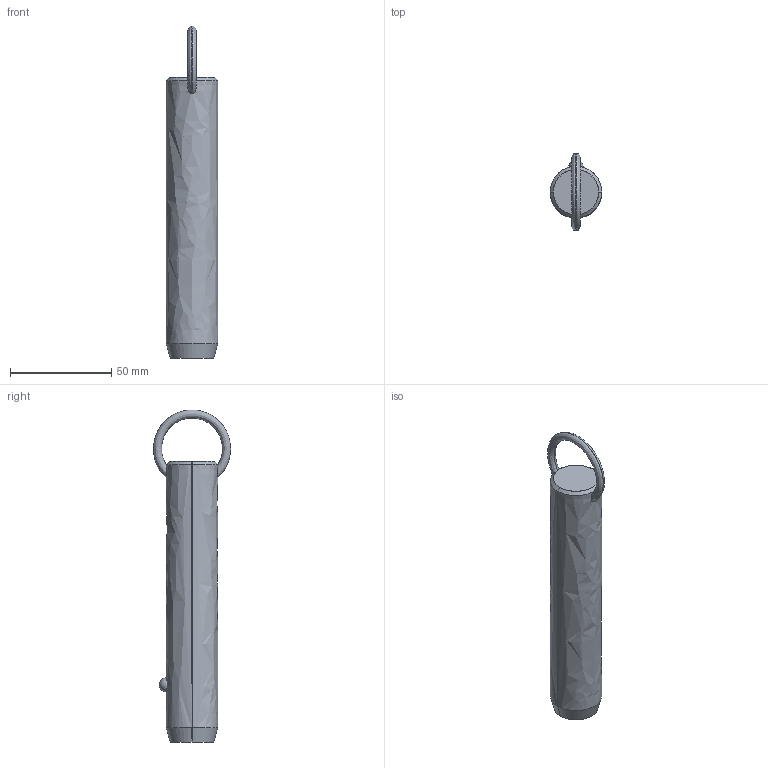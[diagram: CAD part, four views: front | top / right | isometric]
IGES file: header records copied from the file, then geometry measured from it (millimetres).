
Start section: SolidWorks IGES file using analytic representation for surfaces
Global section: file name: C:\Users\liam_\OneDrive\Documents\WORK\Work for WixRoyd\Job Files\J-00019 - Matt Davis CAD Checking\04. CAD Drawings\automotion20190605\P1250.2_v2\P1250.2_v2_20190729_IGES\P1250.100-370.igs; native system: SolidWorks 2017; preprocessor: SolidWorks 2017; author: liam_; date: 190730.173828; units: millimetre
Bounding box: 25.4 x 38.09 x 163.8 mm (x, y, z)
Surface area: 12817.2 mm2 (no closed solid volume)
Topology: 0 solids, 0 shells, 12 faces, 298 edges, 296 vertices
Faces by surface type: revolution 8, bspline 4
